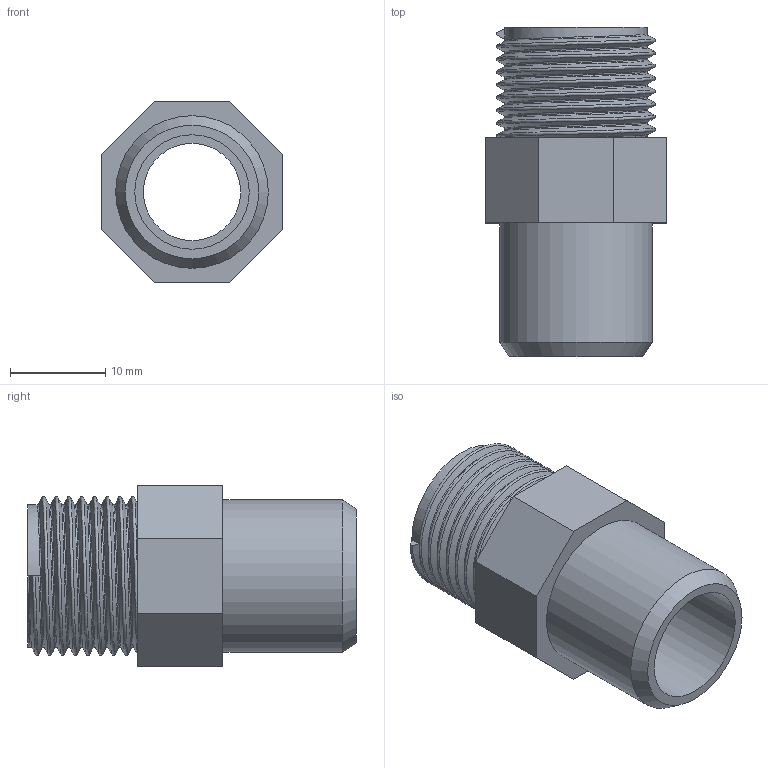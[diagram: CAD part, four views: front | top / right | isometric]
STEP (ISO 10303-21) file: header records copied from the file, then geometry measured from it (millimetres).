
FILE_DESCRIPTION(/* description */ ('PVC adattatore incollaggio-filettatura BSP maschio'),/* implementation_level */ '2;1');
FILE_NAME(/* name */ 'C:\Users\POLYPIPE\Desktop\DATASET INVENTOR\LIBRERIA EFFAST\RACCORDI 3DxWEB\RGR\3D_RGRAMG\3D_RGRAMG012A.stp',/* time_stamp */ '2018-01-19T17:33:39+01:00',/* author */ ('POLYPIPE'),/* organization */ ('Polypipe Italia s.r.l.'),/* preprocessor_version */ 'ST-DEVELOPER v16.1',/* originating_system */ 'Autodesk Inventor 2016',/* authorisation */ '');
FILE_SCHEMA (('CONFIG_CONTROL_DESIGN'));
Length unit declared in the file: millimetre
Products named in the file (1): 3D_RGRAMG
Bounding box: 19 x 34.5 x 19 mm (x, y, z)
Volume: 4251.9 mm3; surface area: 3822.6 mm2
Topology: 1 solids, 1 shells, 26 faces, 56 edges, 36 vertices
Faces by surface type: plane 15, cylinder 5, bspline 5, cone 1
Full cylindrical faces by diameter (mm): 10.2 x1, 11.2 x1, 12 x1, 14.95 x1, 16 x1
Entity records: 3821 total; most frequent: CARTESIAN_POINT 3268, ORIENTED_EDGE 102, DIRECTION 97, EDGE_CURVE 51, EDGE_LOOP 37, VERTEX_POINT 36, AXIS2_PLACEMENT_3D 35, LINE 27
